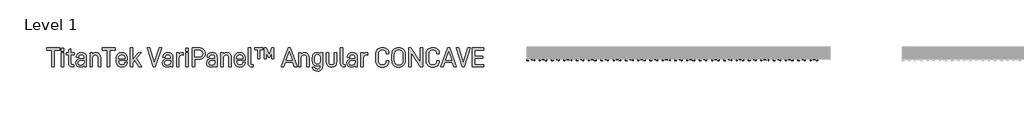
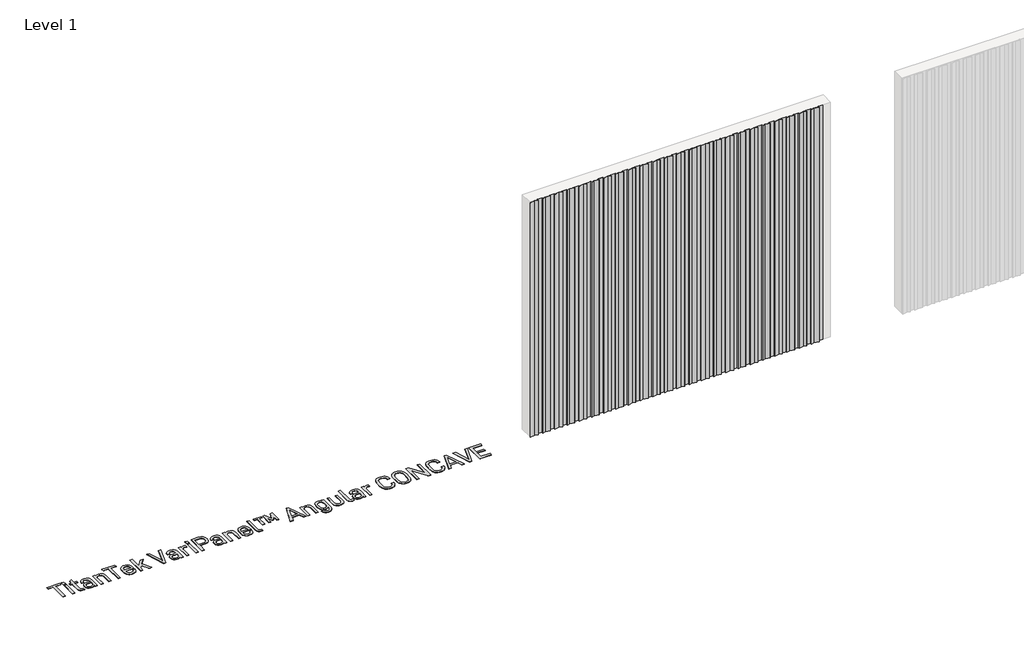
# One storey, part 12 of 33: 2 proxies.
"""IFC4 building model written with IfcOpenShell, lengths in millimetres."""

from ifc_helpers import new_model, si_unit, origin, origin_with_axes, place, context, project, spatial, polyline, outline, extrude, transform, mapped, element, save
from components import aluminum_slate_gray_498a6bbb

model = new_model("IFC4")

# Units and contexts
model_context = context("Model", 3, world=origin())
ifc_project = project(units=[si_unit("LENGTHUNIT", "METRE", prefix="MILLI")], contexts=[model_context])

# Site, building, storey
site = spatial("IfcSite", under=ifc_project)
building = spatial("IfcBuilding", under=site)
storey = spatial("IfcBuildingStorey", under=building, Name="Level 1", Elevation=0.0)

# Proxies
placement = place(None, origin())
element("IfcBuildingElementProxy", 1, Name="600mm Arial 2", ObjectType="600mm Arial 2", at=placement, inside=storey, context=model_context, shape_type="SweptSolid", body=[
    extrude(outline(polyline([(-9914.9924556, 12220.4128343), (-9914.9924556, 11952.9873502), (-9954.4439015, 11952.9873502), (-9954.4439015, 12220.4128343), (-10038.8787304, 12220.4128343), (-10038.8787304, 12257.3166776), (-9830.5576267, 12257.3166776), (-9830.5576267, 12220.4128343), (-9914.9924556, 12220.4128343)])), origin_with_axes(), (0.0, 0.0, 1.0), 5.0),
    extrude(outline(polyline([(-9763.1553408, 12253.0221475), (-9763.1553408, 12205.8551051), (-9802.6067867, 12205.8551051), (-9802.6067867, 12253.0221475), (-9763.1553408, 12253.0221475)])), origin_with_axes(), (0.0, 0.0, 1.0), 5.0),
    extrude(outline(polyline([(-9764.0288046, 12178.8505176), (-9764.0288046, 11952.9873502), (-9801.733323, 11952.9873502), (-9801.733323, 12178.8505176), (-9764.0288046, 12178.8505176)])), origin_with_axes(), (0.0, 0.0, 1.0), 5.0),
    extrude(outline(polyline([(-9648.294858, 12012.601251), (-9646.8208879, 12001.5191797), (-9642.3989777, 11993.6034145), (-9635.0291273, 11988.8539554), (-9624.7113368, 11987.2708023), (-9603.2386864, 11987.2708023), (-9603.2386864, 11952.9873502), (-9629.3698101, 11952.9873502), (-9653.1535001, 11956.9543314), (-9671.3688587, 11968.855275), (-9682.6692959, 11987.3981825), (-9686.4361083, 12011.2910554), (-9686.4361083, 12147.1146681), (-9720.2828285, 12147.1146681), (-9720.2828285, 12178.8505176), (-9686.4361083, 12178.8505176), (-9686.4361083, 12226.8910237), (-9648.294858, 12244.8698192), (-9648.294858, 12178.8505176), (-9599.3808881, 12178.8505176), (-9599.3808881, 12147.1146681), (-9648.294858, 12147.1146681), (-9648.294858, 12012.601251)])), origin_with_axes(), (0.0, 0.0, 1.0), 5.0),
    extrude(outline(polyline([(-9422.8684225, 12162.1091291), (-9413.2830677, 12151.3409589), (-9406.4363858, 12138.2526505), (-9400.9590402, 12105.1156196), (-9400.9590402, 11952.9873502), (-9438.2996154, 11952.9873502), (-9438.2996154, 11969.2920069), (-9456.7151427, 11956.8451485), (-9473.7476858, 11952.0410978), (-9493.9829293, 11950.4397476), (-9526.0281305, 11954.7160806), (-9550.1029751, 11967.5450794), (-9565.2248162, 11989.3270816), (-9570.2654299, 12018.5699199), (-9565.1338304, 12046.2114081), (-9549.7390318, 12067.4111012), (-9525.063681, 12080.6222403), (-9493.1094655, 12085.0259534), (-9438.7363472, 12085.0259534), (-9438.7363472, 12105.5523515), (-9441.6296959, 12124.441005), (-9450.3097419, 12138.1616647), (-9464.2305704, 12146.1866129), (-9483.7197302, 12148.8615956), (-9502.2262434, 12146.6051476), (-9515.819523, 12139.8358036), (-9524.1720201, 12129.4816187), (-9526.9561857, 12115.4516073), (-9526.9561857, 12109.8468816), (-9563.8600291, 12109.8468816), (-9563.8600291, 12116.2522824), (-9558.4008807, 12143.2932642), (-9542.0234354, 12164.2927885), (-9516.8203668, 12177.4493362), (-9484.1564621, 12181.8348521), (-9448.6719974, 12176.9034213), (-9434.5600987, 12170.7391329), (-9422.8684225, 12162.1091291)]), holes=[polyline([(-9450.6736851, 11994.5496669), (-9441.7206817, 12009.4531421), (-9438.7363472, 12031.0167784), (-9438.7363472, 12054.9642428), (-9488.8149354, 12054.9642428), (-9507.9538, 12052.7168933), (-9521.6244175, 12045.974845), (-9529.826788, 12034.7380979), (-9532.5609115, 12019.0066518), (-9529.8540837, 12003.0522906), (-9521.7336004, 11991.6563182), (-9508.1994616, 11984.8187348), (-9489.2516673, 11982.5395404), (-9466.104878, 11985.542072), (-9450.6736851, 11994.5496669)])]), origin_with_axes(), (0.0, 0.0, 1.0), 5.0),
    extrude(outline(polyline([(-9306.6977441, 12178.8505176), (-9306.6977441, 12160.4349903), (-9288.2822167, 12173.6825238), (-9271.1222935, 12179.4692211), (-9252.2518372, 12181.3981202), (-9219.9154813, 12175.9389718), (-9206.7907787, 12169.1150363), (-9195.6950595, 12159.5615265), (-9187.0650557, 12147.9790333), (-9180.9007673, 12134.1946835), (-9175.9693365, 12100.0204144), (-9175.9693365, 11952.9873502), (-9213.673855, 11952.9873502), (-9213.673855, 12095.7258843), (-9216.6763866, 12118.1083928), (-9225.6839815, 12133.8671346), (-9240.3781893, 12143.4752358), (-9259.567096, 12146.6779363), (-9278.7378056, 12143.4752358), (-9293.3774219, 12133.8671346), (-9303.0401146, 12117.453295), (-9306.2610122, 12095.7258843), (-9306.2610122, 11952.9873502), (-9343.9655306, 11952.9873502), (-9343.9655306, 12178.8505176), (-9306.6977441, 12178.8505176)])), origin_with_axes(), (0.0, 0.0, 1.0), 5.0),
    extrude(outline(polyline([(-9025.2240514, 12220.4128343), (-9025.2240514, 11952.9873502), (-9064.6754974, 11952.9873502), (-9064.6754974, 12220.4128343), (-9149.1103263, 12220.4128343), (-9149.1103263, 12257.3166776), (-8940.7892225, 12257.3166776), (-8940.7892225, 12220.4128343), (-9025.2240514, 12220.4128343)])), origin_with_axes(), (0.0, 0.0, 1.0), 5.0),
    extrude(outline(polyline([(-8884.5235994, 12047.2486463), (-8881.1025331, 12017.8329349), (-8870.8393341, 11998.8805913), (-8854.3527058, 11988.5900965), (-8832.2613519, 11985.1599316), (-8812.990558, 11987.7257314), (-8798.8513635, 11995.4231306), (-8790.1713175, 12007.1966941), (-8787.2779689, 12022.86445), (-8787.2779689, 12028.3963871), (-8750.3741256, 12028.3963871), (-8750.3741256, 12021.9909863), (-8756.0516399, 11992.8391337), (-8763.1485329, 11980.528754), (-8773.084183, 11969.7287387), (-8799.7976159, 11955.2619954), (-8834.3722226, 11950.4397476), (-8853.3222916, 11951.9387388), (-8870.2843206, 11956.4357123), (-8885.2583098, 11963.9306682), (-8898.2442591, 11974.4236064), (-8908.7371973, 11988.0237099), (-8916.2321532, 12004.8401617), (-8920.7291267, 12024.8729617), (-8922.2281179, 12048.1221101), (-8922.2281179, 12085.8266285), (-8920.7314014, 12108.5321367), (-8916.2412518, 12128.1714231), (-8908.7576691, 12144.7444879), (-8898.2806535, 12158.2513309), (-8885.4971476, 12168.5691214), (-8870.7301511, 12175.9389718), (-8853.979664, 12180.360882), (-8835.2456864, 12181.8348521), (-8816.8438069, 12180.360882), (-8800.2161506, 12175.9389718), (-8785.3627176, 12168.5691214), (-8772.2835079, 12158.2513309), (-8761.9657174, 12144.9082623), (-8754.595867, 12128.389789), (-8750.1739568, 12108.6959111), (-8748.6999867, 12085.8266285), (-8748.6999867, 12055.8377065), (-8884.5235994, 12055.8377065), (-8884.5235994, 12047.2486463)]), holes=[polyline([(-8871.2760659, 12133.4304027), (-8881.2117161, 12115.30603), (-8884.5235994, 12086.7000923), (-8786.4045051, 12086.2633604), (-8786.4045051, 12089.6844267), (-8789.6254027, 12116.9255774), (-8799.2880954, 12134.3038665), (-8814.9012599, 12143.5844188), (-8835.2456864, 12146.6779363), (-8855.60831, 12143.3660529), (-8871.2760659, 12133.4304027)])]), origin_with_axes(), (0.0, 0.0, 1.0), 5.0),
    extrude(outline(polyline([(-8663.391694, 12020.3168474), (-8663.391694, 11952.9873502), (-8701.0962125, 11952.9873502), (-8701.0962125, 12257.3166776), (-8663.391694, 12257.3166776), (-8663.391694, 12070.8321675), (-8575.0990669, 12178.8505176), (-8528.3687564, 12178.8505176), (-8602.5403863, 12091.8680861), (-8517.6688255, 11952.9873502), (-8563.5256722, 11952.9873502), (-8627.7980463, 12062.6798392), (-8663.391694, 12020.3168474)])), origin_with_axes(), (0.0, 0.0, 1.0), 5.0),
    extrude(outline(polyline([(-8240.5624516, 12257.3166776), (-8199.0001349, 12257.3166776), (-8298.4294248, 11952.9873502), (-8330.1652743, 11952.9873502), (-8429.1578324, 12257.3166776), (-8387.5955157, 12257.3166776), (-8313.8606177, 12022.86445), (-8240.5624516, 12257.3166776)])), origin_with_axes(), (0.0, 0.0, 1.0), 5.0),
    extrude(outline(polyline([(-8039.3018464, 12162.1091291), (-8029.7164916, 12151.3409589), (-8022.8698097, 12138.2526505), (-8017.3924641, 12105.1156196), (-8017.3924641, 11952.9873502), (-8054.7330393, 11952.9873502), (-8054.7330393, 11969.2920069), (-8073.1485666, 11956.8451485), (-8090.1811097, 11952.0410978), (-8110.4163532, 11950.4397476), (-8142.4615544, 11954.7160806), (-8166.536399, 11967.5450794), (-8181.6582401, 11989.3270816), (-8186.6988538, 12018.5699199), (-8181.5672543, 12046.2114081), (-8166.1724557, 12067.4111012), (-8141.4971049, 12080.6222403), (-8109.5428894, 12085.0259534), (-8055.1697712, 12085.0259534), (-8055.1697712, 12105.5523515), (-8058.0631198, 12124.441005), (-8066.7431658, 12138.1616647), (-8080.6639943, 12146.1866129), (-8100.1531542, 12148.8615956), (-8118.6596673, 12146.6051476), (-8132.2529469, 12139.8358036), (-8140.605444, 12129.4816187), (-8143.3896097, 12115.4516073), (-8143.3896097, 12109.8468816), (-8180.293453, 12109.8468816), (-8180.293453, 12116.2522824), (-8174.8343046, 12143.2932642), (-8158.4568593, 12164.2927885), (-8133.2537908, 12177.4493362), (-8100.589886, 12181.8348521), (-8065.1054213, 12176.9034213), (-8050.9935226, 12170.7391329), (-8039.3018464, 12162.1091291)]), holes=[polyline([(-8067.107109, 11994.5496669), (-8058.1541056, 12009.4531421), (-8055.1697712, 12031.0167784), (-8055.1697712, 12054.9642428), (-8105.2483594, 12054.9642428), (-8124.3872239, 12052.7168933), (-8138.0578414, 12045.974845), (-8146.2602119, 12034.7380979), (-8148.9943354, 12019.0066518), (-8146.2875076, 12003.0522906), (-8138.1670243, 11991.6563182), (-8124.6328855, 11984.8187348), (-8105.6850912, 11982.5395404), (-8082.5383019, 11985.542072), (-8067.107109, 11994.5496669)])]), origin_with_axes(), (0.0, 0.0, 1.0), 5.0),
    extrude(outline(polyline([(-7870.4321886, 12181.8348521), (-7850.2697337, 12179.7239814), (-7850.2697337, 12140.7092673), (-7876.8375894, 12146.313993), (-7895.1712295, 12142.7746451), (-7909.8472402, 12132.1566015), (-7919.4826371, 12115.7518604), (-7922.6944361, 12094.8524206), (-7922.6944361, 11952.9873502), (-7960.3989546, 11952.9873502), (-7960.3989546, 12178.8505176), (-7923.131168, 12178.8505176), (-7923.131168, 12159.1247947), (-7905.5891044, 12173.3185806), (-7889.4846166, 12179.7057842), (-7870.4321886, 12181.8348521)])), origin_with_axes(), (0.0, 0.0, 1.0), 5.0),
    extrude(outline(polyline([(-7773.9872331, 12253.0221475), (-7773.9872331, 12205.8551051), (-7813.438679, 12205.8551051), (-7813.438679, 12253.0221475), (-7773.9872331, 12253.0221475)])), origin_with_axes(), (0.0, 0.0, 1.0), 5.0),
    extrude(outline(polyline([(-7774.8606969, 12178.8505176), (-7774.8606969, 11952.9873502), (-7812.5652153, 11952.9873502), (-7812.5652153, 12178.8505176), (-7774.8606969, 12178.8505176)])), origin_with_axes(), (0.0, 0.0, 1.0), 5.0),
    extrude(outline(polyline([(-7529.6357497, 12233.2964245), (-7518.2033831, 12219.8396237), (-7510.0374069, 12203.926206), (-7505.1378212, 12185.5561716), (-7503.504626, 12164.7295204), (-7505.1651169, 12145.044741), (-7510.1465899, 12127.5527196), (-7518.4490448, 12112.2534562), (-7530.0724816, 12099.1469507), (-7544.1297888, 12088.6380899), (-7560.6073184, 12081.1317609), (-7579.5050706, 12076.6279634), (-7600.8230452, 12075.1266976), (-7671.5008201, 12075.1266976), (-7671.5008201, 11952.9873502), (-7711.3889979, 11952.9873502), (-7711.3889979, 12257.3166776), (-7600.8230452, 12257.3166776), (-7579.6415493, 12255.8154118), (-7560.7165014, 12251.3116143), (-7544.0479016, 12243.8052853), (-7529.6357497, 12233.2964245)]), holes=[polyline([(-7558.3872648, 12125.2780744), (-7547.141419, 12141.5827311), (-7543.3928038, 12164.7295204), (-7547.250602, 12189.3502798), (-7558.8239966, 12206.7285689), (-7577.8946218, 12216.9917679), (-7603.3706478, 12220.4128343), (-7671.5008201, 12220.4128343), (-7671.5008201, 12112.0305409), (-7603.3706478, 12112.0305409), (-7577.130341, 12115.3424243), (-7558.3872648, 12125.2780744)])]), origin_with_axes(), (0.0, 0.0, 1.0), 5.0),
    extrude(outline(polyline([(-7331.2139018, 12162.1091291), (-7321.628547, 12151.3409589), (-7314.781865, 12138.2526505), (-7309.3045194, 12105.1156196), (-7309.3045194, 11952.9873502), (-7346.6450946, 11952.9873502), (-7346.6450946, 11969.2920069), (-7365.060622, 11956.8451485), (-7382.093165, 11952.0410978), (-7402.3284085, 11950.4397476), (-7434.3736098, 11954.7160806), (-7458.4484543, 11967.5450794), (-7473.5702954, 11989.3270816), (-7478.6109091, 12018.5699199), (-7473.4793096, 12046.2114081), (-7458.0845111, 12067.4111012), (-7433.4091602, 12080.6222403), (-7401.4549448, 12085.0259534), (-7347.0818265, 12085.0259534), (-7347.0818265, 12105.5523515), (-7349.9751752, 12124.441005), (-7358.6552212, 12138.1616647), (-7372.5760496, 12146.1866129), (-7392.0652095, 12148.8615956), (-7410.5717226, 12146.6051476), (-7424.1650022, 12139.8358036), (-7432.5174993, 12129.4816187), (-7435.301665, 12115.4516073), (-7435.301665, 12109.8468816), (-7472.2055083, 12109.8468816), (-7472.2055083, 12116.2522824), (-7466.7463599, 12143.2932642), (-7450.3689146, 12164.2927885), (-7425.1658461, 12177.4493362), (-7392.5019414, 12181.8348521), (-7357.0174766, 12176.9034213), (-7342.905578, 12170.7391329), (-7331.2139018, 12162.1091291)]), holes=[polyline([(-7359.0191644, 11994.5496669), (-7350.066161, 12009.4531421), (-7347.0818265, 12031.0167784), (-7347.0818265, 12054.9642428), (-7397.1604147, 12054.9642428), (-7416.2992792, 12052.7168933), (-7429.9698967, 12045.974845), (-7438.1722672, 12034.7380979), (-7440.9063907, 12019.0066518), (-7438.199563, 12003.0522906), (-7430.0790797, 11991.6563182), (-7416.5449409, 11984.8187348), (-7397.5971466, 11982.5395404), (-7374.4503573, 11985.542072), (-7359.0191644, 11994.5496669)])]), origin_with_axes(), (0.0, 0.0, 1.0), 5.0),
    extrude(outline(polyline([(-7215.0432233, 12178.8505176), (-7215.0432233, 12160.4349903), (-7196.627696, 12173.6825238), (-7179.4677728, 12179.4692211), (-7160.5973164, 12181.3981202), (-7128.2609606, 12175.9389718), (-7115.1362579, 12169.1150363), (-7104.0405387, 12159.5615265), (-7095.410535, 12147.9790333), (-7089.2462465, 12134.1946835), (-7084.3148158, 12100.0204144), (-7084.3148158, 11952.9873502), (-7122.0193342, 11952.9873502), (-7122.0193342, 12095.7258843), (-7125.0218659, 12118.1083928), (-7134.0294607, 12133.8671346), (-7148.7236686, 12143.4752358), (-7167.9125753, 12146.6779363), (-7187.0832848, 12143.4752358), (-7201.7229012, 12133.8671346), (-7211.3855939, 12117.453295), (-7214.6064915, 12095.7258843), (-7214.6064915, 11952.9873502), (-7252.3110099, 11952.9873502), (-7252.3110099, 12178.8505176), (-7215.0432233, 12178.8505176)])), origin_with_axes(), (0.0, 0.0, 1.0), 5.0),
    extrude(outline(polyline([(-6997.8419048, 12047.2486463), (-6994.4208384, 12017.8329349), (-6984.1576394, 11998.8805913), (-6967.6710112, 11988.5900965), (-6945.5796572, 11985.1599316), (-6926.3088633, 11987.7257314), (-6912.1696689, 11995.4231306), (-6903.4896229, 12007.1966941), (-6900.5962742, 12022.86445), (-6900.5962742, 12028.3963871), (-6863.6924309, 12028.3963871), (-6863.6924309, 12021.9909863), (-6869.3699452, 11992.8391337), (-6876.4668382, 11980.528754), (-6886.4024883, 11969.7287387), (-6913.1159213, 11955.2619954), (-6947.6905279, 11950.4397476), (-6966.6405969, 11951.9387388), (-6983.602626, 11956.4357123), (-6998.5766152, 11963.9306682), (-7011.5625645, 11974.4236064), (-7022.0555027, 11988.0237099), (-7029.5504585, 12004.8401617), (-7034.047432, 12024.8729617), (-7035.5464232, 12048.1221101), (-7035.5464232, 12085.8266285), (-7034.0497067, 12108.5321367), (-7029.5595571, 12128.1714231), (-7022.0759745, 12144.7444879), (-7011.5989588, 12158.2513309), (-6998.8154529, 12168.5691214), (-6984.0484564, 12175.9389718), (-6967.2979694, 12180.360882), (-6948.5639917, 12181.8348521), (-6930.1621122, 12180.360882), (-6913.534456, 12175.9389718), (-6898.681023, 12168.5691214), (-6885.6018132, 12158.2513309), (-6875.2840227, 12144.9082623), (-6867.9141723, 12128.389789), (-6863.4922621, 12108.6959111), (-6862.018292, 12085.8266285), (-6862.018292, 12055.8377065), (-6997.8419048, 12055.8377065), (-6997.8419048, 12047.2486463)]), holes=[polyline([(-6984.5943713, 12133.4304027), (-6994.5300214, 12115.30603), (-6997.8419048, 12086.7000923), (-6899.7228105, 12086.2633604), (-6899.7228105, 12089.6844267), (-6902.943708, 12116.9255774), (-6912.6064007, 12134.3038665), (-6928.2195652, 12143.5844188), (-6948.5639917, 12146.6779363), (-6968.9266153, 12143.3660529), (-6984.5943713, 12133.4304027)])]), origin_with_axes(), (0.0, 0.0, 1.0), 5.0),
    extrude(outline(polyline([(-6799.4200568, 11968.855275), (-6810.6659025, 11988.362632), (-6814.4145178, 12014.2753899), (-6814.4145178, 12257.3166776), (-6776.7099994, 12257.3166776), (-6776.7099994, 12016.0223174), (-6775.3270151, 12002.6110094), (-6771.1780623, 11994.112935), (-6764.1903523, 11989.6364333), (-6753.5632101, 11988.1442661), (-6731.7266164, 11988.1442661), (-6731.7266164, 11952.9873502), (-6756.5475445, 11952.9873502), (-6781.4230642, 11956.9543314), (-6799.4200568, 11968.855275)])), origin_with_axes(), (0.0, 0.0, 1.0), 5.0),
    extrude(outline(polyline([(-6712.9471458, 12226.01756), (-6712.9471458, 12257.3166776), (-6580.9813313, 12257.3166776), (-6580.9813313, 12226.01756), (-6629.8225125, 12226.01756), (-6629.8225125, 12079.8579596), (-6663.6692327, 12079.8579596), (-6663.6692327, 12226.01756), (-6712.9471458, 12226.01756)])), origin_with_axes(), (0.0, 0.0, 1.0), 5.0),
    extrude(outline(polyline([(-6435.2584627, 12257.3166776), (-6404.8328089, 12257.3166776), (-6404.8328089, 12079.8579596), (-6437.3693334, 12079.8579596), (-6437.3693334, 12178.4137857), (-6470.4153786, 12104.6788877), (-6493.9988997, 12104.6788877), (-6527.4088881, 12178.4137857), (-6527.4088881, 12079.8579596), (-6559.9454127, 12079.8579596), (-6559.9454127, 12257.3166776), (-6529.5197588, 12257.3166776), (-6481.9887732, 12149.7350594), (-6435.2584627, 12257.3166776)])), origin_with_axes(), (0.0, 0.0, 1.0), 5.0),
    extrude(outline(polyline([(-6219.4401284, 12024.1746457), (-6244.2610566, 11952.9873502), (-6286.2601051, 11952.9873502), (-6175.6941524, 12257.3166776), (-6143.5943597, 12257.3166776), (-6032.9556183, 11952.9873502), (-6074.9546669, 11952.9873502), (-6099.8483837, 12024.1746457), (-6219.4401284, 12024.1746457)]), holes=[polyline([(-6159.8262277, 12196.4653699), (-6207.4300019, 12059.2587729), (-6111.8585102, 12059.2587729), (-6159.8262277, 12196.4653699)])]), origin_with_axes(), (0.0, 0.0, 1.0), 5.0),
    extrude(outline(polyline([(-5971.2308468, 12178.8505176), (-5971.2308468, 12160.4349903), (-5952.8153195, 12173.6825238), (-5935.6553963, 12179.4692211), (-5916.7849399, 12181.3981202), (-5884.4485841, 12175.9389718), (-5871.3238814, 12169.1150363), (-5860.2281623, 12159.5615265), (-5851.5981585, 12147.9790333), (-5845.43387, 12134.1946835), (-5840.5024393, 12100.0204144), (-5840.5024393, 11952.9873502), (-5878.2069577, 11952.9873502), (-5878.2069577, 12095.7258843), (-5881.2094894, 12118.1083928), (-5890.2170843, 12133.8671346), (-5904.9112921, 12143.4752358), (-5924.1001988, 12146.6779363), (-5943.2709083, 12143.4752358), (-5957.9105247, 12133.8671346), (-5967.5732174, 12117.453295), (-5970.794115, 12095.7258843), (-5970.794115, 11952.9873502), (-6008.4986334, 11952.9873502), (-6008.4986334, 12178.8505176), (-5971.2308468, 12178.8505176)])), origin_with_axes(), (0.0, 0.0, 1.0), 5.0),
    extrude(outline(polyline([(-5659.7682322, 12180.5974451), (-5621.6269819, 12180.5974451), (-5621.6269819, 11974.4600007), (-5627.1953133, 11937.3559886), (-5634.1557275, 11922.2023024), (-5643.9003075, 11909.3141629), (-5656.3289687, 11898.8053021), (-5670.904895, 11891.2989731), (-5687.6280863, 11886.7951756), (-5706.4985427, 11885.2939098), (-5738.434561, 11889.370074), (-5763.9287841, 11901.5985664), (-5781.5982278, 11922.9074424), (-5788.3129804, 11950.8764795), (-5750.608462, 11950.8764795), (-5747.0782126, 11937.6653403), (-5737.3609284, 11927.2929583), (-5724.0770006, 11921.1787121), (-5706.4985427, 11919.14063), (-5686.0540319, 11922.4343162), (-5671.4508098, 11932.3153749), (-5662.6888766, 11948.783806), (-5659.7682322, 11971.8396095), (-5659.7682322, 11988.580998), (-5676.9463526, 11974.8239439), (-5694.1608673, 11968.4367403), (-5714.2141391, 11966.3076724), (-5745.0583277, 11972.0943697), (-5758.2285233, 11979.3277414), (-5769.897453, 11989.4544617), (-5779.4509628, 12002.3880942), (-5786.2748983, 12018.4789341), (-5791.7340467, 12060.1322366), (-5791.7340467, 12090.1211586), (-5786.2748983, 12131.7198696), (-5779.4509628, 12147.6878787), (-5769.897453, 12160.4349903), (-5758.2012275, 12170.3706404), (-5744.9491448, 12177.4675334), (-5713.7774073, 12183.1450477), (-5697.7093137, 12181.6710776), (-5683.3517534, 12177.2491674), (-5670.7047262, 12169.879317), (-5659.7682322, 12159.5615265), (-5659.7682322, 12180.5974451)]), holes=[polyline([(-5672.6518225, 12017.6964562), (-5662.9891298, 12037.2220104), (-5659.7682322, 12062.315896), (-5659.7682322, 12085.8266285), (-5662.8799468, 12111.7757807), (-5672.2150906, 12132.1202071), (-5687.3915232, 12144.3486996), (-5708.1726816, 12148.4248637), (-5728.0439818, 12144.6489528), (-5742.2377677, 12133.3212198), (-5750.7540392, 12114.4416648), (-5753.5927964, 12088.0102879), (-5753.5927964, 12061.8791641), (-5750.8632222, 12035.4159421), (-5742.6744996, 12016.5136407), (-5729.0266285, 12005.1722599), (-5709.919609, 12001.3917996), (-5688.155804, 12005.4679637), (-5672.6518225, 12017.6964562)])]), origin_with_axes(), (0.0, 0.0, 1.0), 5.0),
    extrude(outline(polyline([(-5544.9805381, 11973.1498051), (-5554.1519074, 11985.4920298), (-5560.7028855, 12000.2453784), (-5565.943668, 12036.9854473), (-5565.943668, 12178.8505176), (-5528.2391496, 12178.8505176), (-5528.2391496, 12040.8432455), (-5525.5641668, 12015.6765713), (-5517.5392187, 11998.4074651), (-5503.5183058, 11988.471815), (-5481.9819653, 11985.1599316), (-5460.4456247, 11988.362632), (-5446.4247119, 11997.9707332), (-5438.3451722, 12015.3490224), (-5435.6519923, 12040.8432455), (-5435.6519923, 12178.8505176), (-5397.9474739, 12178.8505176), (-5397.9474739, 12036.9854473), (-5403.2064535, 12000.2453784), (-5409.7801781, 11985.4920298), (-5418.9833925, 11973.1498051), (-5430.9707725, 11963.2141549), (-5445.533051, 11956.117262), (-5462.6702277, 11951.8591262), (-5482.3823028, 11950.4397476), (-5501.7167868, 11951.8591262), (-5518.594654, 11956.117262), (-5533.0159044, 11963.2141549), (-5544.9805381, 11973.1498051)])), origin_with_axes(), (0.0, 0.0, 1.0), 5.0),
    extrude(outline(polyline([(-5327.3424876, 11968.855275), (-5338.5883334, 11988.362632), (-5342.3369486, 12014.2753899), (-5342.3369486, 12257.3166776), (-5304.6324302, 12257.3166776), (-5304.6324302, 12016.0223174), (-5303.2494459, 12002.6110094), (-5299.1004931, 11994.112935), (-5292.1127831, 11989.6364333), (-5281.4856409, 11988.1442661), (-5259.6490472, 11988.1442661), (-5259.6490472, 11952.9873502), (-5284.4699754, 11952.9873502), (-5309.345495, 11956.9543314), (-5327.3424876, 11968.855275)])), origin_with_axes(), (0.0, 0.0, 1.0), 5.0),
    extrude(outline(polyline([(-5090.4882348, 12162.1091291), (-5080.90288, 12151.3409589), (-5074.056198, 12138.2526505), (-5068.5788524, 12105.1156196), (-5068.5788524, 11952.9873502), (-5105.9194276, 11952.9873502), (-5105.9194276, 11969.2920069), (-5124.334955, 11956.8451485), (-5141.367498, 11952.0410978), (-5161.6027415, 11950.4397476), (-5193.6479428, 11954.7160806), (-5217.7227873, 11967.5450794), (-5232.8446284, 11989.3270816), (-5237.8852422, 12018.5699199), (-5232.7536426, 12046.2114081), (-5217.3588441, 12067.4111012), (-5192.6834932, 12080.6222403), (-5160.7292778, 12085.0259534), (-5106.3561595, 12085.0259534), (-5106.3561595, 12105.5523515), (-5109.2495082, 12124.441005), (-5117.9295542, 12138.1616647), (-5131.8503826, 12146.1866129), (-5151.3395425, 12148.8615956), (-5169.8460557, 12146.6051476), (-5183.4393352, 12139.8358036), (-5191.7918323, 12129.4816187), (-5194.575998, 12115.4516073), (-5194.575998, 12109.8468816), (-5231.4798413, 12109.8468816), (-5231.4798413, 12116.2522824), (-5226.0206929, 12143.2932642), (-5209.6432476, 12164.2927885), (-5184.4401791, 12177.4493362), (-5151.7762744, 12181.8348521), (-5116.2918096, 12176.9034213), (-5102.179911, 12170.7391329), (-5090.4882348, 12162.1091291)]), holes=[polyline([(-5118.2934974, 11994.5496669), (-5109.340494, 12009.4531421), (-5106.3561595, 12031.0167784), (-5106.3561595, 12054.9642428), (-5156.4347477, 12054.9642428), (-5175.5736122, 12052.7168933), (-5189.2442297, 12045.974845), (-5197.4466002, 12034.7380979), (-5200.1807237, 12019.0066518), (-5197.473896, 12003.0522906), (-5189.3534127, 11991.6563182), (-5175.8192739, 11984.8187348), (-5156.8714796, 11982.5395404), (-5133.7246903, 11985.542072), (-5118.2934974, 11994.5496669)])]), origin_with_axes(), (0.0, 0.0, 1.0), 5.0),
    extrude(outline(polyline([(-4921.6185769, 12181.8348521), (-4901.4561221, 12179.7239814), (-4901.4561221, 12140.7092673), (-4928.0239777, 12146.313993), (-4946.3576178, 12142.7746451), (-4961.0336285, 12132.1566015), (-4970.6690255, 12115.7518604), (-4973.8808245, 12094.8524206), (-4973.8808245, 11952.9873502), (-5011.5853429, 11952.9873502), (-5011.5853429, 12178.8505176), (-4974.3175563, 12178.8505176), (-4974.3175563, 12159.1247947), (-4956.7754927, 12173.3185806), (-4940.6710049, 12179.7057842), (-4921.6185769, 12181.8348521)])), origin_with_axes(), (0.0, 0.0, 1.0), 5.0),
    extrude(outline(polyline([(-4748.3088117, 11977.881067), (-4761.2378948, 11994.3676953), (-4770.4729543, 12014.7121217), (-4776.0139899, 12038.9143464), (-4777.8610018, 12066.9743693), (-4777.8610018, 12143.6936018), (-4776.0139899, 12171.9219484), (-4770.4729543, 12196.1924124), (-4761.2378948, 12216.5049939), (-4748.3088117, 12232.8596927), (-4732.2998589, 12245.2474103), (-4713.8251908, 12254.09578), (-4692.8848073, 12259.4048019), (-4669.4787084, 12261.1744758), (-4640.1084899, 12258.2811272), (-4614.5960696, 12249.6010812), (-4593.4873624, 12235.4436896), (-4577.3282831, 12216.1183042), (-4567.6655904, 12192.7713461), (-4564.4446928, 12166.4036592), (-4564.4446928, 12160.8717222), (-4604.3328706, 12160.8717222), (-4604.3328706, 12166.4036592), (-4608.6092035, 12190.2965321), (-4621.4382023, 12208.8394396), (-4642.255755, 12220.4128343), (-4669.4787084, 12224.2706325), (-4698.9308142, 12219.5575677), (-4720.4671547, 12205.4183733), (-4728.15773, 12194.4136399), (-4733.6509981, 12180.251699), (-4738.0456126, 12142.4561948), (-4738.0456126, 12065.3002304), (-4733.7328854, 12030.9712854), (-4720.7947036, 12006.4506105), (-4711.0910673, 11997.8683742), (-4699.2310673, 11991.7382055), (-4669.0419766, 11986.8340705), (-4641.7098401, 11990.6918687), (-4621.4382023, 12002.2652633), (-4608.6092035, 12020.4806219), (-4604.3328706, 12044.2643119), (-4604.3328706, 12050.3057694), (-4565.3181566, 12050.3057694), (-4565.3181566, 12044.2643119), (-4567.0832812, 12023.4103649), (-4572.3786552, 12004.9584432), (-4581.2042785, 11988.9085469), (-4593.5601511, 11975.2606758), (-4608.9231046, 11964.0193793), (-4626.697182, 11955.9898819), (-4646.8823833, 11951.1721834), (-4669.4787084, 11949.5662839), (-4692.8848073, 11951.3359578), (-4713.8251908, 11956.6449797), (-4732.2998589, 11965.4933494), (-4748.3088117, 11977.881067)])), origin_with_axes(), (0.0, 0.0, 1.0), 5.0),
    extrude(outline(polyline([(-4488.3077695, 11977.881067), (-4500.8547123, 11994.2039208), (-4509.8168143, 12014.4937558), (-4515.1940755, 12038.7505719), (-4516.9864959, 12066.9743693), (-4516.9864959, 12143.6936018), (-4515.1667797, 12171.7854697), (-4509.7076313, 12196.0104408), (-4500.6090506, 12216.3685152), (-4487.8710376, 12232.8596927), (-4472.2123802, 12245.2474103), (-4453.9879231, 12254.09578), (-4433.1976662, 12259.4048019), (-4409.8416095, 12261.1744758), (-4386.6811723, 12259.4048019), (-4366.041042, 12254.09578), (-4347.9212185, 12245.2474103), (-4332.3217019, 12232.8596927), (-4319.7429141, 12216.5049939), (-4310.7580656, 12196.1924124), (-4305.3671566, 12171.9219484), (-4303.5701869, 12143.6936018), (-4303.5701869, 12066.9743693), (-4305.389903, 12038.9143464), (-4310.8490514, 12014.7121217), (-4319.9476321, 11994.3676953), (-4332.6856451, 11977.881067), (-4348.4807812, 11965.4933494), (-4366.6779426, 11956.6449797), (-4387.2771293, 11951.3359578), (-4410.2783414, 11949.5662839), (-4433.634398, 11951.3359578), (-4454.4246549, 11956.6449797), (-4472.6491121, 11965.4933494), (-4488.3077695, 11977.881067)]), holes=[polyline([(-4343.4583647, 12142.4561948), (-4347.6073175, 12178.2500113), (-4360.0541759, 12203.8170231), (-4369.3893197, 12212.7654772), (-4380.7989399, 12219.1572301), (-4409.8416095, 12224.2706325), (-4439.0116592, 12219.5575677), (-4460.4297182, 12205.4183733), (-4467.7540757, 12194.2498655), (-4472.9857596, 12180.0333331), (-4477.1711067, 12142.4561948), (-4477.1711067, 12065.3002304), (-4472.8765766, 12029.0696821), (-4467.508414, 12015.6083319), (-4459.9929863, 12005.2495978), (-4439.1208422, 11991.4379523), (-4409.8416095, 11986.8340705), (-4380.7989399, 11991.7382055), (-4369.3893197, 11997.8683742), (-4360.0541759, 12006.4506105), (-4347.6073175, 12030.9712854), (-4343.4583647, 12065.3002304), (-4343.4583647, 12142.4561948)])]), origin_with_axes(), (0.0, 0.0, 1.0), 5.0),
    extrude(outline(polyline([(-4065.8424703, 12257.3166776), (-4025.9542925, 12257.3166776), (-4025.9542925, 11952.9873502), (-4063.7315995, 11952.9873502), (-4210.2551432, 12181.3981202), (-4210.2551432, 11952.9873502), (-4250.143321, 11952.9873502), (-4250.143321, 12257.3166776), (-4212.4388026, 12257.3166776), (-4065.8424703, 12029.7065827), (-4065.8424703, 12257.3166776)])), origin_with_axes(), (0.0, 0.0, 1.0), 5.0),
    extrude(outline(polyline([(-3942.3929273, 11977.881067), (-3955.3220105, 11994.3676953), (-3964.5570699, 12014.7121217), (-3970.0981055, 12038.9143464), (-3971.9451174, 12066.9743693), (-3971.9451174, 12143.6936018), (-3970.0981055, 12171.9219484), (-3964.5570699, 12196.1924124), (-3955.3220105, 12216.5049939), (-3942.3929273, 12232.8596927), (-3926.3839745, 12245.2474103), (-3907.9093064, 12254.09578), (-3886.9689229, 12259.4048019), (-3863.5628241, 12261.1744758), (-3834.1926055, 12258.2811272), (-3808.6801853, 12249.6010812), (-3787.571478, 12235.4436896), (-3771.4123987, 12216.1183042), (-3761.749706, 12192.7713461), (-3758.5288084, 12166.4036592), (-3758.5288084, 12160.8717222), (-3798.4169862, 12160.8717222), (-3798.4169862, 12166.4036592), (-3802.6933192, 12190.2965321), (-3815.5223179, 12208.8394396), (-3836.3398706, 12220.4128343), (-3863.5628241, 12224.2706325), (-3893.0149298, 12219.5575677), (-3914.5512703, 12205.4183733), (-3922.2418457, 12194.4136399), (-3927.7351138, 12180.251699), (-3932.1297282, 12142.4561948), (-3932.1297282, 12065.3002304), (-3927.817001, 12030.9712854), (-3914.8788192, 12006.4506105), (-3905.1751829, 11997.8683742), (-3893.315183, 11991.7382055), (-3863.1260922, 11986.8340705), (-3835.7939558, 11990.6918687), (-3815.5223179, 12002.2652633), (-3802.6933192, 12020.4806219), (-3798.4169862, 12044.2643119), (-3798.4169862, 12050.3057694), (-3759.4022722, 12050.3057694), (-3759.4022722, 12044.2643119), (-3761.1673968, 12023.4103649), (-3766.4627708, 12004.9584432), (-3775.2883941, 11988.9085469), (-3787.6442667, 11975.2606758), (-3803.0072202, 11964.0193793), (-3820.7812976, 11955.9898819), (-3840.9664989, 11951.1721834), (-3863.5628241, 11949.5662839), (-3886.9689229, 11951.3359578), (-3907.9093064, 11956.6449797), (-3926.3839745, 11965.4933494), (-3942.3929273, 11977.881067)])), origin_with_axes(), (0.0, 0.0, 1.0), 5.0),
    extrude(outline(polyline([(-3302.5807322, 12257.3166776), (-3261.0184156, 12257.3166776), (-3360.4477055, 11952.9873502), (-3392.183555, 11952.9873502), (-3491.176113, 12257.3166776), (-3449.6137964, 12257.3166776), (-3375.8788984, 12022.86445), (-3302.5807322, 12257.3166776)])), origin_with_axes(), (0.0, 0.0, 1.0), 5.0),
    extrude(outline(polyline([(-3671.2552223, 12024.1746457), (-3696.0761505, 11952.9873502), (-3738.075199, 11952.9873502), (-3627.5092463, 12257.3166776), (-3595.4094536, 12257.3166776), (-3484.7707122, 11952.9873502), (-3526.7697607, 11952.9873502), (-3551.6634775, 12024.1746457), (-3671.2552223, 12024.1746457)]), holes=[polyline([(-3611.6413215, 12196.4653699), (-3659.2450958, 12059.2587729), (-3563.6736041, 12059.2587729), (-3611.6413215, 12196.4653699)])]), origin_with_axes(), (0.0, 0.0, 1.0), 5.0),
    extrude(outline(polyline([(-3194.7079594, 12126.1515382), (-3067.8373501, 12126.1515382), (-3067.8373501, 12089.3204835), (-3194.7079594, 12089.3204835), (-3194.7079594, 11989.8184049), (-3046.4374882, 11989.8184049), (-3046.4374882, 11952.9873502), (-3234.5961372, 11952.9873502), (-3234.5961372, 12257.3166776), (-3046.4374882, 12257.3166776), (-3046.4374882, 12220.4128343), (-3194.7079594, 12220.4128343), (-3194.7079594, 12126.1515382)])), origin_with_axes(), (0.0, 0.0, 1.0), 5.0),
])
aluminum_slate_gray_shape = aluminum_slate_gray_498a6bbb(model_context)
element("IfcBuildingElementProxy", 2, Name="TitanTek VariPanel™ Angular CONCAVE : Aluminum Slate Gray", ObjectType="TitanTek VariPanel™ Angular CONCAVE : Aluminum Slate Gray", at=placement, inside=storey, context=model_context, shape_type="MappedRepresentation", body=[
    mapped(aluminum_slate_gray_shape, transform((-2360.5897817, 12078.6095025, 0.0), x_axis=(1.0, 0.0, 0.0), y_axis=(0.0, 1.0, 0.0), z_axis=(0.0, 0.0, 1.0))),
])

save(model, "model.ifc")
